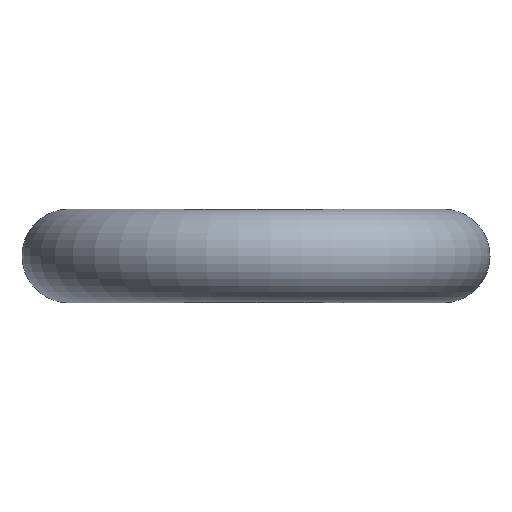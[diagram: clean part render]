
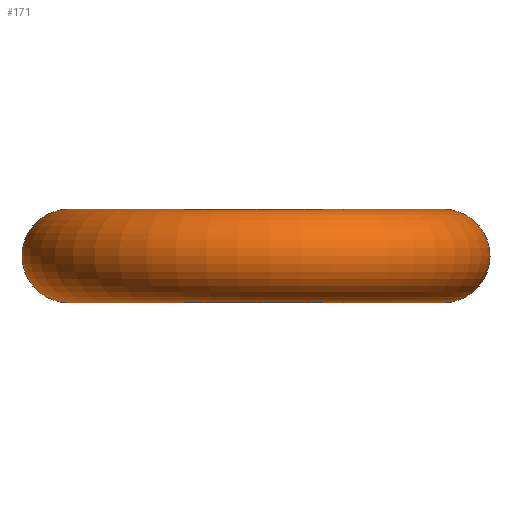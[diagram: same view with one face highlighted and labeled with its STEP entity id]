
A CAD part, front view. The second image highlights one B-rep face of the part: STEP entity #171.
In plain terms, the highlighted toroidal (fillet/blend) face has major radius 12 mm and minor radius 3 mm.
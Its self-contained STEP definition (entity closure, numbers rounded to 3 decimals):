
#140=CARTESIAN_POINT('',(14.833,2.231,0.));
#141=VERTEX_POINT('',#140);
#142=CARTESIAN_POINT('',(11.867,1.785,0.0));
#143=DIRECTION('',(0.149,-0.989,0.0));
#144=DIRECTION('',(-0.989,-0.149,0.0));
#145=AXIS2_PLACEMENT_3D('',#142,#143,#144);
#146=CIRCLE('',#145,3.);
#147=EDGE_CURVE('',#141,#141,#146,.T.);
#152=CARTESIAN_POINT('',(0.0,0.0,0.0));
#153=DIRECTION('',(0.0,0.0,1.0));
#154=DIRECTION('',(1.0,0.0,0.0));
#155=AXIS2_PLACEMENT_3D('',#152,#153,#154);
#156=TOROIDAL_SURFACE('',#155,12.,3.);
#157=ORIENTED_EDGE('',*,*,#147,.T.);
#158=EDGE_LOOP('',(#157));
#159=FACE_OUTER_BOUND('',#158,.T.);
#160=CARTESIAN_POINT('',(-14.833,2.231,0.));
#161=VERTEX_POINT('',#160);
#162=CARTESIAN_POINT('',(-11.867,1.785,0.0));
#163=DIRECTION('',(0.149,0.989,0.0));
#164=DIRECTION('',(0.989,-0.149,0.0));
#165=AXIS2_PLACEMENT_3D('',#162,#163,#164);
#166=CIRCLE('',#165,3.);
#167=EDGE_CURVE('',#161,#161,#166,.T.);
#168=ORIENTED_EDGE('',*,*,#167,.F.);
#169=EDGE_LOOP('',(#168));
#170=FACE_BOUND('',#169,.T.);
#171=ADVANCED_FACE('',(#159,#170),#156,.T.);
